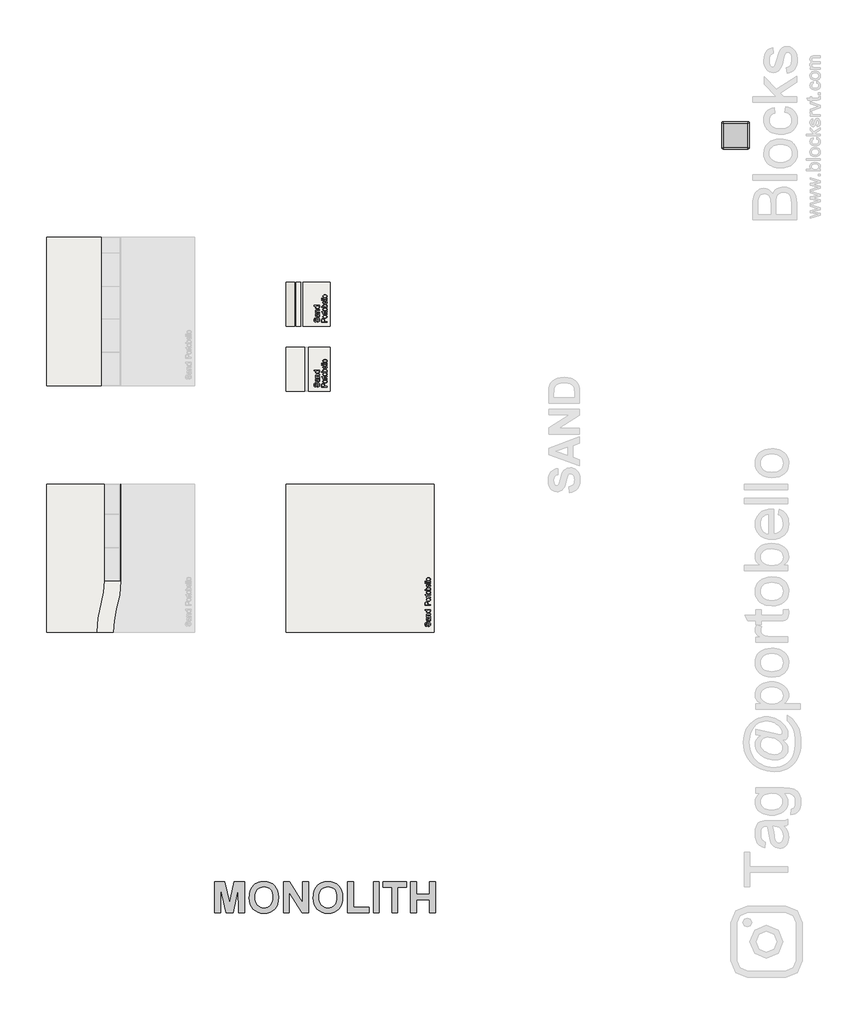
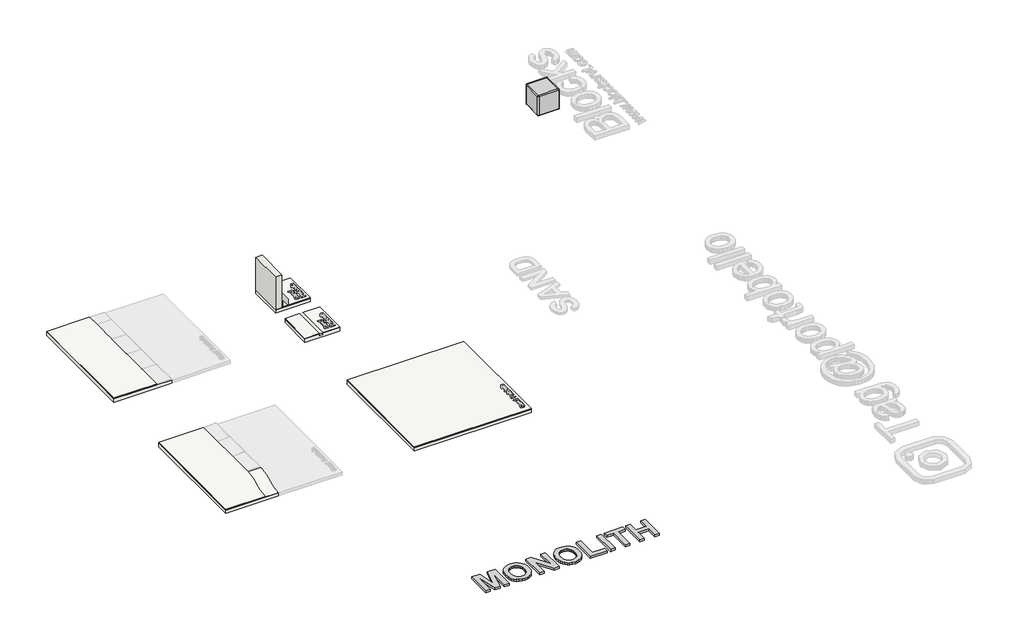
# One storey, part 1 of 6: 10 slabs, 1 furniture element, 1 proxy, 1 wall.
"""IFC4 building model written with IfcOpenShell, lengths in millimetres."""

from ifc_helpers import new_model, si_unit, frame, origin, origin_with_axes, place, context, project, spatial, polyline, circle_curve, outline, extrude, transform, mapped, element, save
from ifc_brep_helpers import plane_surface, cylinder_surface, revolved_surface, advanced_brep
from components import branco_22256ad2

model = new_model("IFC4")

# Units and contexts
model_context = context("Model", 3, world=origin())
ifc_project = project(units=[si_unit("LENGTHUNIT", "METRE", prefix="MILLI")], contexts=[model_context])

# Site, building, storey
site = spatial("IfcSite", under=ifc_project)
building = spatial("IfcBuilding", under=site)
storey = spatial("IfcBuildingStorey", under=building, Name="PORTOBELLO - SHOWROOM", Elevation=0.0)

# Proxy
placement = place(None, origin())
element("IfcBuildingElementProxy", 1, Name="550mm Arial", ObjectType="550mm Arial", at=placement, inside=storey, context=model_context, shape_type="SweptSolid", body=[
    extrude(outline(polyline([(-9354.9543226, -12102.6873012), (-9354.9543226, -11541.5446312), (-9172.0819346, -11541.5446312), (-9083.2900141, -11924.2684265), (-8994.7764382, -11541.5446312), (-8811.6257056, -11541.5446312), (-8811.6257056, -12102.6873012), (-8918.5100237, -12102.6873012), (-8922.9635369, -11660.9544553), (-9020.6624839, -12102.6873012), (-9145.6391996, -12102.6873012), (-9243.6164912, -11660.9544553), (-9248.0700045, -12102.6873012), (-9354.9543226, -12102.6873012)])), origin_with_axes(), (0.0, 0.0, 1.0), 50.0),
    extrude(outline(polyline([(-8722.5554405, -11825.5952734), (-8720.981054, -11784.5220516), (-8716.2578944, -11746.8933439), (-8708.3859618, -11712.7091504), (-8697.3652562, -11681.969471), (-8675.1498795, -11641.4181452), (-8646.0802676, -11605.2159535), (-8612.0352464, -11575.5896525), (-8574.8936417, -11554.7659987), (-8548.1551656, -11545.0848263), (-8519.4334845, -11538.1697032), (-8456.0405067, -11532.6376047), (-8398.197024, -11537.4346996), (-8346.442329, -11551.8259841), (-8300.7764216, -11575.8114583), (-8261.1993019, -11609.3911222), (-8229.2331667, -11651.5124853), (-8206.400213, -11701.1230573), (-8192.7004408, -11758.2228381), (-8188.1338501, -11822.8118277), (-8192.6656477, -11886.9615547), (-8206.2610407, -11943.7177539), (-8228.9200291, -11993.0804252), (-8260.6426127, -12035.0495687), (-8299.9587844, -12068.5379007), (-8345.3985368, -12092.4581379), (-8396.96187, -12106.8102803), (-8454.6487838, -12111.5943277), (-8512.9445765, -12106.8320259), (-8564.942823, -12092.5451206), (-8610.6435235, -12068.7336118), (-8650.0466779, -12035.3974994), (-8681.7692615, -11993.7110496), (-8704.4282499, -11944.8485287), (-8718.0236429, -11888.8099367), (-8722.5554405, -11825.5952734)]), holes=[polyline([(-8615.6711224, -11821.6984493), (-8612.8311379, -11866.0857113), (-8604.3111843, -11904.7495129), (-8590.1112617, -11937.6898541), (-8570.23137, -11964.9067349), (-8545.9762495, -11986.2174917), (-8518.6506403, -12001.4394608), (-8488.2545426, -12010.5726423), (-8454.7879561, -12013.6170361), (-8421.3561628, -12010.594388), (-8391.0644442, -12001.5264435), (-8363.9128004, -11986.4132027), (-8339.9012314, -11965.2546656), (-8320.2648912, -11938.0508322), (-8306.238934, -11904.8017025), (-8297.8233596, -11865.5072765), (-8295.0181682, -11820.1675542), (-8297.7494243, -11775.4584563), (-8305.9431929, -11736.8033529), (-8319.5994737, -11704.2022442), (-8338.718267, -11677.65513), (-8362.3601596, -11657.0750278), (-8389.5857387, -11642.3749547), (-8420.3950042, -11633.5549109), (-8454.7879561, -11630.6148963), (-8489.2157012, -11633.589704), (-8520.1293459, -11642.514127), (-8547.5288903, -11657.3881654), (-8571.4143345, -11678.2118192), (-8590.7766792, -11705.0285797), (-8604.6069254, -11737.8819382), (-8612.9050732, -11776.7718947), (-8615.6711224, -11821.6984493)])]), origin_with_axes(), (0.0, 0.0, 1.0), 50.0),
    extrude(outline(polyline([(-8099.063585, -12102.6873012), (-8099.063585, -11541.5446312), (-7987.0298922, -11541.5446312), (-7751.6895512, -11919.2582241), (-7751.6895512, -11541.5446312), (-7644.8052331, -11541.5446312), (-7644.8052331, -12102.6873012), (-7760.3182331, -12102.6873012), (-7992.1792669, -11730.5405999), (-7992.1792669, -12102.6873012), (-8099.063585, -12102.6873012)])), origin_with_axes(), (0.0, 0.0, 1.0), 50.0),
    extrude(outline(polyline([(-7555.734968, -11825.5952734), (-7554.1605815, -11784.5220516), (-7549.4374219, -11746.8933439), (-7541.5654893, -11712.7091504), (-7530.5447837, -11681.969471), (-7508.329407, -11641.4181452), (-7479.2597951, -11605.2159535), (-7445.2147739, -11575.5896525), (-7408.0731692, -11554.7659987), (-7381.3346932, -11545.0848263), (-7352.613012, -11538.1697032), (-7289.2200342, -11532.6376047), (-7231.3765516, -11537.4346996), (-7179.6218565, -11551.8259841), (-7133.9559491, -11575.8114583), (-7094.3788294, -11609.3911222), (-7062.4126942, -11651.5124853), (-7039.5797405, -11701.1230573), (-7025.8799683, -11758.2228381), (-7021.3133776, -11822.8118277), (-7025.8451752, -11886.9615547), (-7039.4405682, -11943.7177539), (-7062.0995566, -11993.0804252), (-7093.8221402, -12035.0495687), (-7133.1383119, -12068.5379007), (-7178.5780644, -12092.4581379), (-7230.1413975, -12106.8102803), (-7287.8283114, -12111.5943277), (-7346.124104, -12106.8320259), (-7398.1223505, -12092.5451206), (-7443.823051, -12068.7336118), (-7483.2262054, -12035.3974994), (-7514.948789, -11993.7110496), (-7537.6077774, -11944.8485287), (-7551.2031704, -11888.8099367), (-7555.734968, -11825.5952734)]), holes=[polyline([(-7448.8506499, -11821.6984493), (-7446.0106654, -11866.0857113), (-7437.4907118, -11904.7495129), (-7423.2907892, -11937.6898541), (-7403.4108975, -11964.9067349), (-7379.155777, -11986.2174917), (-7351.8301678, -12001.4394608), (-7321.4340701, -12010.5726423), (-7287.9674836, -12013.6170361), (-7254.5356903, -12010.594388), (-7224.2439717, -12001.5264435), (-7197.0923279, -11986.4132027), (-7173.0807589, -11965.2546656), (-7153.4444188, -11938.0508322), (-7139.4184615, -11904.8017025), (-7131.0028871, -11865.5072765), (-7128.1976957, -11820.1675542), (-7130.9289518, -11775.4584563), (-7139.1227204, -11736.8033529), (-7152.7790012, -11704.2022442), (-7171.8977945, -11677.65513), (-7195.5396871, -11657.0750278), (-7222.7652662, -11642.3749547), (-7253.5745317, -11633.5549109), (-7287.9674836, -11630.6148963), (-7322.3952287, -11633.589704), (-7353.3088734, -11642.514127), (-7380.7084178, -11657.3881654), (-7404.593862, -11678.2118192), (-7423.9562067, -11705.0285797), (-7437.7864529, -11737.8819382), (-7446.0846007, -11776.7718947), (-7448.8506499, -11821.6984493)])]), origin_with_axes(), (0.0, 0.0, 1.0), 50.0),
    extrude(outline(polyline([(-6932.2431125, -12102.6873012), (-6932.2431125, -11541.5446312), (-6825.3587944, -11541.5446312), (-6825.3587944, -12004.7100096), (-6540.3339462, -12004.7100096), (-6540.3339462, -12102.6873012), (-6932.2431125, -12102.6873012)])), origin_with_axes(), (0.0, 0.0, 1.0), 50.0),
    extrude(outline(polyline([(-6460.1707076, -12102.6873012), (-6460.1707076, -11541.5446312), (-6353.2863895, -11541.5446312), (-6353.2863895, -12102.6873012), (-6460.1707076, -12102.6873012)])), origin_with_axes(), (0.0, 0.0, 1.0), 50.0),
    extrude(outline(polyline([(-6121.7037003, -12102.6873012), (-6121.7037003, -11639.5219228), (-6282.0301774, -11639.5219228), (-6282.0301774, -11541.5446312), (-5854.4929051, -11541.5446312), (-5854.4929051, -11639.5219228), (-6014.8193822, -11639.5219228), (-6014.8193822, -12102.6873012), (-6121.7037003, -12102.6873012)])), origin_with_axes(), (0.0, 0.0, 1.0), 50.0),
    extrude(outline(polyline([(-5783.236693, -12102.6873012), (-5783.236693, -11541.5446312), (-5676.3523749, -11541.5446312), (-5676.3523749, -11764.2202939), (-5435.8626592, -11764.2202939), (-5435.8626592, -11541.5446312), (-5328.9783411, -11541.5446312), (-5328.9783411, -12102.6873012), (-5435.8626592, -12102.6873012), (-5435.8626592, -11862.1975855), (-5676.3523749, -11862.1975855), (-5676.3523749, -12102.6873012), (-5783.236693, -12102.6873012)])), origin_with_axes(), (0.0, 0.0, 1.0), 50.0),
])

# Furniture
branco_shape = branco_22256ad2(model_context)
element("IfcFurniture", 2, ObjectType="Blks_Mob_Blocks Revit_Cubo : Branco", at=placement, inside=storey, context=model_context, shape_type="MappedRepresentation", body=[
    mapped(branco_shape, transform((145.2148271, 2064.2260964, 0.0), x_axis=(1.0, 0.0, 0.0), y_axis=(0.0, 1.0, 0.0), z_axis=(0.0, 0.0, 1.0))),
])

# Slabs
element("IfcSlab", 3, ObjectType="PORTOBELLO - LAJE", at=placement, inside=storey, context=model_context, shape_type="SweptSolid", body=[
    extrude(outline(polyline([(-80.0, -12419.9813168), (-80.0, -11069.9813168), (-4.0005136, -11069.9813168), (-4.0005136, -11421.9813211), (0.0, -11421.9813211), (0.0, -12419.9813168), (-80.0, -12419.9813168)])), frame((0.0, -2493.608239, 0.0), z_axis=(0.0, 1.0, 0.0), x_axis=(0.0, 0.0, 1.0)), (0.0, 0.0, 1.0), 2700.0),
])
element("IfcSlab", 4, ObjectType="PORTOBELLO - MONOLITH OUT SAND EXT BOLD - COMP 01", at=placement, inside=storey, context=model_context, shape_type="SweptSolid", body=[
    extrude(outline(polyline([(-12419.9813168, -2493.608239), (-12419.9813168, 206.391761), (-11421.9813211, 206.391761), (-11421.9813211, -2493.608239), (-12419.9813168, -2493.608239)])), frame((0.0, 0.0, -0.0002568), z_axis=(0.0, 0.0, 1.0), x_axis=(1.0, 0.0, 0.0)), (0.0, 0.0, 1.0), 20.0),
])
element("IfcSlab", 5, ObjectType="PORTOBELLO - LAJE", at=placement, inside=storey, context=model_context, shape_type="AdvancedBrep", body=[
    advanced_brep(
    [(-11069.9813168, -4288.608239, -80.0), (-11069.9813168, -6050.9531398, -80.0), (-11146.8006624, -6572.0351952, -80.0), (-11205.0179614, -6988.608239, -80.0), (-12419.9813168, -6988.608239, -80.0), (-12419.9813168, -4288.608239, -80.0), (-11069.9813168, -4288.608239, 0.0), (-12419.9813168, -4288.608239, 0.0), (-12419.9813168, -6988.608239, 0.0), (-11205.0179614, -6988.608239, 0.0), (-11146.8006624, -6572.0351952, 0.0), (-11070.0032488, -6050.9531398, 0.0)],
    [
        (0, 1),
        (1, 2, circle_curve(frame((-12876.2121954, -6050.9531398, -80.0), z_axis=(0.0, 0.0, -1.0), x_axis=(1.0, 0.0, 0.0)), 1806.2089466)),
        (2, 3, circle_curve(frame((-9698.8323015, -6986.7475412, -80.0), z_axis=(0.0, 0.0, 1.0), x_axis=(1.0, 0.0, 0.0)), 1506.1868092)),
        (3, 4),
        (4, 5),
        (5, 0),
        (6, 7),
        (7, 8),
        (8, 9),
        (9, 10, circle_curve(frame((-9698.8323015, -6986.7475412, 0.0), z_axis=(0.0, 0.0, -1.0), x_axis=(1.0, 0.0, 0.0)), 1506.1868092)),
        (10, 11, circle_curve(frame((-12876.2121954, -6050.9531398, 0.0), z_axis=(0.0, 0.0, 1.0), x_axis=(1.0, 0.0, 0.0)), 1806.2089466)),
        (11, 6),
        (0, 6),
        (11, 1),
        (3, 9),
        (8, 4),
        (7, 5),
        (10, 2),
    ],
    [
        plane_surface(frame((-11069.9813168, -4288.608239, -80.0), z_axis=(0.0, 0.0, -1.0), x_axis=(0.0, -1.0, 0.0))),
        plane_surface(frame((-11069.9813168, -4288.608239, 0.0), z_axis=(0.0, 0.0, 1.0), x_axis=(0.0, 1.0, 0.0))),
        plane_surface(frame((-11069.9813168, -4288.608239, -80.0), z_axis=(1.0, 0.0, 0.0), x_axis=(0.0, 0.0, 1.0))),
        plane_surface(frame((-11205.0179614, -6988.608239, -80.0), z_axis=(0.0, -1.0, 0.0), x_axis=(0.0, 0.0, 1.0))),
        plane_surface(frame((-12419.9813168, -6988.608239, -80.0), z_axis=(-1.0, 0.0, 0.0), x_axis=(0.0, 0.0, 1.0))),
        plane_surface(frame((-12419.9813168, -4288.608239, -80.0), z_axis=(0.0, 1.0, 0.0), x_axis=(0.0, 0.0, 1.0))),
        cylinder_surface(frame((-12876.2121954, -6050.9531398, 0.0), z_axis=(0.0, 0.0, -1.0), x_axis=(1.0, 0.0, 0.0)), 1806.2089466),
        revolved_surface(polyline([(-8192.6454923, -6986.7475412, 0.0), (-8192.6454923, -6986.7475412, -80.0)]), (-9698.8323015, -6986.7475412, 0.0), (0.0, 0.0, 1.0)),
    ],
    [
        (0, [[1, 2, 3, 4, 5, 6]]),
        (1, [[7, 8, 9, 10, 11, 12]]),
        (2, [[-1, 13, -12, 14]]),
        (3, [[-4, 15, -9, 16]]),
        (4, [[-5, -16, -8, 17]]),
        (5, [[-6, -17, -7, -13]]),
        (6, [[-2, -14, -11, 18]]),
        (7, [[-3, -18, -10, -15]]),
    ],
),
])
element("IfcSlab", 6, ObjectType="PORTOBELLO - MONOLITH OUT SAND EXT BOLD - COMP 01", at=placement, inside=storey, context=model_context, shape_type="AdvancedBrep", body=[
    advanced_brep(
    [(-11205.0179614, -6988.608239, 0.0), (-12419.9813168, -6988.608239, 0.0), (-12419.9813168, -4288.608239, 0.0), (-11069.9813168, -4288.608239, 0.0), (-11069.9813168, -6050.9531398, 0.0), (-11146.8006624, -6572.0351952, 0.0), (-12419.9813168, -4288.608239, 20.0), (-12419.9813168, -6988.608239, 20.0), (-11507.2293305, -6988.608239, 20.0), (-11507.2293305, -6986.7693548, 20.0), (-11434.2439597, -6479.5670591, 20.0), (-11432.928797, -6475.0919079, 20.0), (-11431.1180776, -6475.6240443, 20.0), (-11370.0120531, -6049.1281175, 20.0), (-11371.9813168, -6049.1281175, 20.0), (-11371.9813168, -4288.608239, 20.0), (-11205.0179614, -6988.608239, 4.0), (-11507.2293305, -6988.608239, 4.0), (-11371.9813168, -4288.608239, 1.9999998), (-11069.9813168, -4288.608239, 1.9999998), (-11069.9813168, -6049.1281175, 1.9999998), (-11069.9813168, -6049.1281175, 4.0), (-11069.9813168, -6050.9531398, 4.0), (-11507.2293305, -6986.7693548, 4.0), (-11146.8006624, -6572.0351952, 4.0), (-11370.0120531, -6049.1281175, 4.0), (-11431.1180776, -6475.6240443, 4.0), (-11432.928797, -6475.0919079, 4.0), (-11434.2439597, -6479.5670591, 4.0), (-11371.9813168, -6049.1281175, 1.9999998)],
    [
        (0, 1),
        (1, 2),
        (2, 3),
        (3, 4),
        (4, 5, circle_curve(frame((-12876.2121954, -6050.9531398, 0.0), z_axis=(0.0, 0.0, -1.0), x_axis=(0.0, -1.0, 0.0)), 1806.2089466)),
        (5, 0, circle_curve(frame((-9698.8323015, -6986.7475412, 0.0), z_axis=(0.0, 0.0, 1.0), x_axis=(0.0, -1.0, 0.0)), 1506.1868092)),
        (6, 7),
        (7, 8),
        (8, 9),
        (9, 10, circle_curve(frame((-9708.3686128, -6986.7693548, 20.0), z_axis=(0.0, 0.0, -1.0), x_axis=(-1.0, 0.0, 0.0)), 1798.8607178)),
        (10, 11),
        (11, 12),
        (12, 13, circle_curve(frame((-12874.8810412, -6051.1440796, 20.0), z_axis=(0.0, 0.0, 1.0), x_axis=(1.0, 0.0, 0.0)), 1504.8703385)),
        (13, 14),
        (14, 15),
        (15, 6),
        (0, 16),
        (16, 17),
        (17, 8),
        (7, 1),
        (6, 2),
        (15, 18),
        (18, 19),
        (19, 3),
        (19, 20),
        (20, 21),
        (21, 22),
        (22, 4),
        (23, 17),
        (16, 24, circle_curve(frame((-9698.8323015, -6986.7475412, 4.0), z_axis=(0.0, 0.0, -1.0), x_axis=(0.0, -1.0, 0.0)), 1506.1868092)),
        (24, 22, circle_curve(frame((-12876.2121954, -6050.9531398, 4.0), z_axis=(0.0, 0.0, 1.0), x_axis=(0.0, -1.0, 0.0)), 1806.2089466)),
        (21, 25),
        (25, 26, circle_curve(frame((-12874.8810412, -6051.1440796, 4.0), z_axis=(0.0, 0.0, -1.0), x_axis=(1.0, 0.0, 0.0)), 1504.8703385)),
        (26, 27),
        (27, 28),
        (28, 23, circle_curve(frame((-9708.3686128, -6986.7693548, 4.0), z_axis=(0.0, 0.0, 1.0), x_axis=(-1.0, 0.0, 0.0)), 1798.8607178)),
        (12, 26),
        (25, 13),
        (28, 10),
        (9, 23),
        (11, 27),
        (24, 5),
        (18, 29),
        (29, 20),
        (14, 29),
    ],
    [
        plane_surface(frame((-12876.2121954, -7857.1620864, 0.0), z_axis=(0.0, 0.0, -1.0), x_axis=(-1.0, 0.0, 0.0))),
        plane_surface(frame((-12876.2121954, -7857.1620864, 20.0), z_axis=(0.0, 0.0, 1.0), x_axis=(1.0, 0.0, 0.0))),
        plane_surface(frame((-11205.0179614, -6988.608239, 0.0), z_axis=(0.0, -1.0, 0.0), x_axis=(0.0, 0.0, 1.0))),
        plane_surface(frame((-12419.9813168, -6988.608239, 0.0), z_axis=(-1.0, 0.0, 0.0), x_axis=(0.0, 0.0, 1.0))),
        plane_surface(frame((-12419.9813168, -4288.608239, 0.0), z_axis=(0.0, 1.0, 0.0), x_axis=(0.0, 0.0, 1.0))),
        plane_surface(frame((-11069.9813168, -4288.608239, 0.0), z_axis=(1.0, 0.0, 0.0), x_axis=(0.0, 0.0, 1.0))),
        plane_surface(frame((-11069.6025791, -6050.9669987, 4.0), z_axis=(0.0, 0.0, 1.0), x_axis=(-1.8318492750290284e-11, -1.0, 0.0))),
        cylinder_surface(frame((-12874.8810412, -6051.1440796, 4.0), z_axis=(0.0, 0.0, -1.0), x_axis=(1.0, 0.0, 0.0)), 1504.8703385),
        revolved_surface(polyline([(-11507.229330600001, -6986.7693548, 20.0), (-11507.229330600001, -6986.7693548, 4.0)]), (-9708.3686128, -6986.7693548, 4.0), (0.0, 0.0, 1.0)),
        plane_surface(frame((-11507.2293305, -6986.7693548, 29.1286159), z_axis=(1.0, 0.0, 0.0), x_axis=(0.0, 0.0, -1.0))),
        plane_surface(frame((-11139.3832707, -6561.3594154, 29.1286159), z_axis=(-0.281957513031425, -0.9594268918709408, 0.0), x_axis=(0.0, 0.0, -1.0))),
        plane_surface(frame((-11432.928797, -6475.0919079, 29.1286159), z_axis=(0.959426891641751, -0.2819575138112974, 0.0), x_axis=(0.0, 0.0, -1.0))),
        cylinder_surface(frame((-12876.2121954, -6050.9531398, 20.0), z_axis=(0.0, 0.0, -1.0), x_axis=(0.0, -1.0, 0.0)), 1806.2089466),
        revolved_surface(polyline([(-9698.8323015, -8492.9343504, 4.0), (-9698.8323015, -8492.9343504, 0.0)]), (-9698.8323015, -6986.7475412, 20.0), (0.0, 0.0, 1.0)),
        plane_surface(frame((-11371.9813168, -6049.1281175, 1.9999998), z_axis=(0.0, 0.0, 1.0), x_axis=(0.0, 1.0, 0.0))),
        plane_surface(frame((-11371.9813168, -4288.608239, 39.9533482), z_axis=(1.0, 0.0, 0.0), x_axis=(0.0, 0.0, -1.0))),
        plane_surface(frame((-11371.9813168, -6049.1281175, 39.9533482), z_axis=(0.0, 1.0, 0.0), x_axis=(0.0, 0.0, -1.0))),
    ],
    [
        (0, [[1, 2, 3, 4, 5, 6]]),
        (1, [[7, 8, 9, 10, 11, 12, 13, 14, 15, 16]]),
        (2, [[-1, 17, 18, 19, -8, 20]]),
        (3, [[-2, -20, -7, 21]]),
        (4, [[-3, -21, -16, 22, 23, 24]]),
        (5, [[-4, -24, 25, 26, 27, 28]]),
        (6, [[29, -18, 30, 31, -27, 32, 33, 34, 35, 36]]),
        (7, [[-13, 37, -33, 38]]),
        (8, [[-36, 39, -10, 40]]),
        (9, [[-29, -40, -9, -19]]),
        (10, [[41, -34, -37, -12]]),
        (11, [[-35, -41, -11, -39]]),
        (12, [[-5, -28, -31, 42]]),
        (13, [[-6, -42, -30, -17]]),
        (14, [[43, 44, -25, -23]]),
        (15, [[-43, -22, -15, 45]]),
        (16, [[-44, -45, -14, -38, -32, -26]]),
    ],
),
])
element("IfcSlab", 7, ObjectType="PORTOBELLO - LAJE", at=placement, inside=storey, context=model_context, shape_type="SweptSolid", body=[
    extrude(outline(polyline([(-7249.9813168, -612.608239), (-7249.9813168, -1412.608239), (-8049.9813168, -1412.608239), (-8049.9813168, -612.608239), (-7249.9813168, -612.608239)])), frame((0.0, 0.0, -80.0), z_axis=(0.0, 0.0, 1.0), x_axis=(1.0, 0.0, 0.0)), (0.0, 0.0, 1.0), 80.0),
])
element("IfcSlab", 8, ObjectType="PORTOBELLO - MONOLITH OUT SAND EXT BOLD - COMP 01", at=placement, inside=storey, context=model_context, shape_type="SweptSolid", body=[
    extrude(outline(polyline([(-7249.9813168, -1412.608239), (-7899.9813168, -1412.608239), (-7899.9813168, -612.608239), (-7249.9813168, -612.608239), (-7249.9813168, -1412.608239)])), origin_with_axes(), (0.0, 0.0, 1.0), 20.0),
])
element("IfcSlab", 9, ObjectType="PORTOBELLO - LAJE", at=placement, inside=storey, context=model_context, shape_type="SweptSolid", body=[
    extrude(outline(polyline([(-7249.9813168, -1794.608239), (-7249.9813168, -2594.608239), (-8049.9813168, -2594.608239), (-8049.9813168, -1794.608239), (-7249.9813168, -1794.608239)])), frame((0.0, 0.0, -80.0), z_axis=(0.0, 0.0, 1.0), x_axis=(1.0, 0.0, 0.0)), (0.0, 0.0, 1.0), 80.0),
])
element("IfcSlab", 10, ObjectType="PORTOBELLO - MONOLITH OUT SAND EXT BOLD - COMP 01", at=placement, inside=storey, context=model_context, shape_type="SweptSolid", body=[
    extrude(outline(polyline([(-8049.9813168, -2594.608239), (-8049.9813168, -1794.608239), (-7714.5784146, -1794.608239), (-7714.5784146, -2594.608239), (-8049.9813168, -2594.608239)])), origin_with_axes(), (0.0, 0.0, 1.0), 20.0),
    extrude(outline(polyline([(-7249.9813168, -1794.608239), (-7249.9813168, -2594.608239), (-7641.5784146, -2594.608239), (-7641.5784146, -1794.608239), (-7249.9813168, -1794.608239)])), origin_with_axes(), (0.0, 0.0, 1.0), 20.0),
])
element("IfcSlab", 11, ObjectType="PORTOBELLO - LAJE", at=placement, inside=storey, context=model_context, shape_type="SweptSolid", body=[
    extrude(outline(polyline([(-5349.9813168, -4288.608239), (-5349.9813168, -6988.608239), (-8049.9813168, -6988.608239), (-8049.9813168, -4288.608239), (-5349.9813168, -4288.608239)])), frame((0.0, 0.0, -80.0), z_axis=(0.0, 0.0, 1.0), x_axis=(1.0, 0.0, 0.0)), (0.0, 0.0, 1.0), 80.0),
])
element("IfcSlab", 12, ObjectType="PORTOBELLO - MONOLITH OUT SAND EXT BOLD - COMP 01", at=placement, inside=storey, context=model_context, shape_type="SweptSolid", body=[
    extrude(outline(polyline([(-5349.9813168, -6988.608239), (-8049.9813168, -6988.608239), (-8049.9813168, -4288.608239), (-5349.9813168, -4288.608239), (-5349.9813168, -6988.608239)])), origin_with_axes(), (0.0, 0.0, 1.0), 20.0),
])

# Wall
element("IfcWall", 13, ObjectType="PORTOBELLO - PAREDE BRANCA", at=placement, inside=storey, context=model_context, shape_type="SweptSolid", body=[
    extrude(outline(polyline([(-7899.9813168, -612.608239), (-7899.9813168, -1412.608239), (-8049.9813168, -1412.608239), (-8049.9813168, -612.608239), (-7899.9813168, -612.608239)])), origin_with_axes(), (0.0, 0.0, 1.0), 800.0),
])

save(model, "model.ifc")
